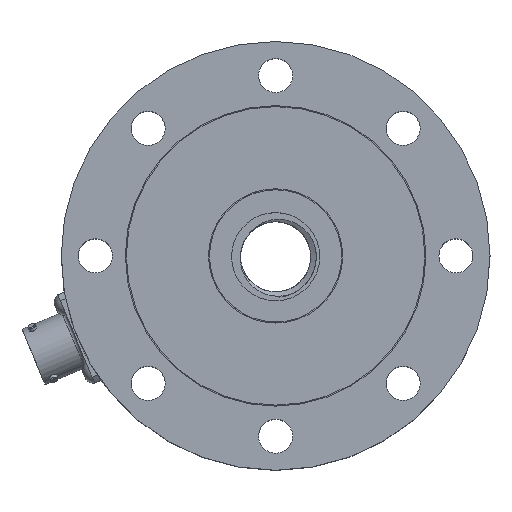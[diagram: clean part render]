
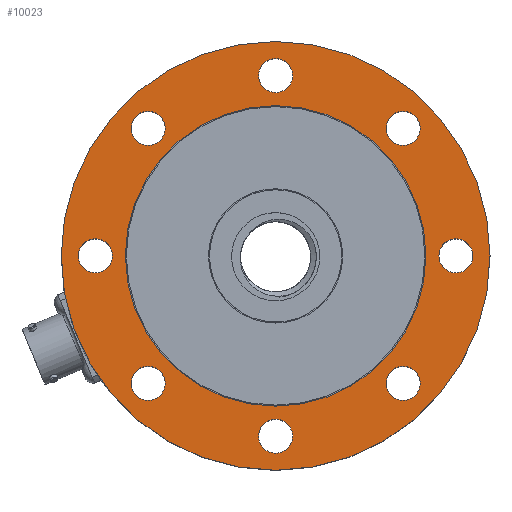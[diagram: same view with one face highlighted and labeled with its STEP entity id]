
A CAD part, top view. The second image highlights one B-rep face of the part: STEP entity #10023.
In plain terms, the highlighted planar face has unit normal (0, 0, 1).
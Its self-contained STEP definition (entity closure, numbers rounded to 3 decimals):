
#210=FACE_BOUND('',#1279,.T.);
#211=FACE_BOUND('',#1280,.T.);
#212=FACE_BOUND('',#1281,.T.);
#213=FACE_BOUND('',#1282,.T.);
#214=FACE_BOUND('',#1283,.T.);
#215=FACE_BOUND('',#1284,.T.);
#216=FACE_BOUND('',#1285,.T.);
#217=FACE_BOUND('',#1286,.T.);
#218=FACE_BOUND('',#1287,.T.);
#367=PLANE('',#10740);
#688=FACE_OUTER_BOUND('',#1278,.T.);
#1278=EDGE_LOOP('',(#7150,#7151));
#1279=EDGE_LOOP('',(#7152));
#1280=EDGE_LOOP('',(#7153));
#1281=EDGE_LOOP('',(#7154));
#1282=EDGE_LOOP('',(#7155));
#1283=EDGE_LOOP('',(#7156));
#1284=EDGE_LOOP('',(#7157));
#1285=EDGE_LOOP('',(#7158));
#1286=EDGE_LOOP('',(#7159));
#1287=EDGE_LOOP('',(#7160,#7161));
#2248=CIRCLE('',#10708,4.25);
#2250=CIRCLE('',#10711,4.25);
#2252=CIRCLE('',#10714,4.25);
#2254=CIRCLE('',#10717,4.25);
#2256=CIRCLE('',#10720,4.25);
#2258=CIRCLE('',#10723,4.25);
#2260=CIRCLE('',#10726,4.25);
#2268=CIRCLE('',#10738,37.5);
#2269=CIRCLE('',#10739,37.5);
#2270=CIRCLE('',#10741,53.5);
#2271=CIRCLE('',#10742,53.5);
#2272=CIRCLE('',#10743,4.25);
#4266=VERTEX_POINT('',#17803);
#4268=VERTEX_POINT('',#17809);
#4270=VERTEX_POINT('',#17815);
#4272=VERTEX_POINT('',#17821);
#4274=VERTEX_POINT('',#17827);
#4276=VERTEX_POINT('',#17833);
#4278=VERTEX_POINT('',#17839);
#4286=VERTEX_POINT('',#17861);
#4287=VERTEX_POINT('',#17862);
#4288=VERTEX_POINT('',#17867);
#4289=VERTEX_POINT('',#17868);
#4290=VERTEX_POINT('',#17871);
#5401=EDGE_CURVE('',#4266,#4266,#2248,.T.);
#5404=EDGE_CURVE('',#4268,#4268,#2250,.T.);
#5407=EDGE_CURVE('',#4270,#4270,#2252,.T.);
#5410=EDGE_CURVE('',#4272,#4272,#2254,.T.);
#5413=EDGE_CURVE('',#4274,#4274,#2256,.T.);
#5416=EDGE_CURVE('',#4276,#4276,#2258,.T.);
#5419=EDGE_CURVE('',#4278,#4278,#2260,.T.);
#5429=EDGE_CURVE('',#4286,#4287,#2268,.T.);
#5431=EDGE_CURVE('',#4287,#4286,#2269,.T.);
#5432=EDGE_CURVE('',#4288,#4289,#2270,.T.);
#5433=EDGE_CURVE('',#4289,#4288,#2271,.T.);
#5434=EDGE_CURVE('',#4290,#4290,#2272,.T.);
#7150=ORIENTED_EDGE('',*,*,#5432,.T.);
#7151=ORIENTED_EDGE('',*,*,#5433,.T.);
#7152=ORIENTED_EDGE('',*,*,#5401,.T.);
#7153=ORIENTED_EDGE('',*,*,#5404,.T.);
#7154=ORIENTED_EDGE('',*,*,#5407,.T.);
#7155=ORIENTED_EDGE('',*,*,#5410,.T.);
#7156=ORIENTED_EDGE('',*,*,#5413,.T.);
#7157=ORIENTED_EDGE('',*,*,#5416,.T.);
#7158=ORIENTED_EDGE('',*,*,#5419,.T.);
#7159=ORIENTED_EDGE('',*,*,#5434,.T.);
#7160=ORIENTED_EDGE('',*,*,#5429,.F.);
#7161=ORIENTED_EDGE('',*,*,#5431,.F.);
#10023=ADVANCED_FACE('',(#688,#210,#211,#212,#213,#214,#215,#216,#217,#218),
#367,.T.);
#10708=AXIS2_PLACEMENT_3D('',#17804,#11999,#12000);
#10711=AXIS2_PLACEMENT_3D('',#17810,#12006,#12007);
#10714=AXIS2_PLACEMENT_3D('',#17816,#12013,#12014);
#10717=AXIS2_PLACEMENT_3D('',#17822,#12020,#12021);
#10720=AXIS2_PLACEMENT_3D('',#17828,#12027,#12028);
#10723=AXIS2_PLACEMENT_3D('',#17834,#12034,#12035);
#10726=AXIS2_PLACEMENT_3D('',#17840,#12041,#12042);
#10738=AXIS2_PLACEMENT_3D('',#17863,#12067,#12068);
#10739=AXIS2_PLACEMENT_3D('',#17865,#12070,#12071);
#10740=AXIS2_PLACEMENT_3D('',#17866,#12072,#12073);
#10741=AXIS2_PLACEMENT_3D('',#17869,#12074,#12075);
#10742=AXIS2_PLACEMENT_3D('',#17870,#12076,#12077);
#10743=AXIS2_PLACEMENT_3D('',#17872,#12078,#12079);
#11999=DIRECTION('center_axis',(0.,0.,
-1.));
#12000=DIRECTION('ref_axis',(-0.707,0.707,0.));
#12006=DIRECTION('center_axis',(0.,0.,
-1.));
#12007=DIRECTION('ref_axis',(0.,1.,0.));
#12013=DIRECTION('center_axis',(0.,0.,
-1.));
#12014=DIRECTION('ref_axis',(0.707,0.707,0.));
#12020=DIRECTION('center_axis',(0.,0.,
-1.));
#12021=DIRECTION('ref_axis',(1.,0.,0.));
#12027=DIRECTION('center_axis',(0.,0.,
-1.));
#12028=DIRECTION('ref_axis',(0.707,-0.707,0.));
#12034=DIRECTION('center_axis',(0.,0.,
-1.));
#12035=DIRECTION('ref_axis',(0.,-1.,0.));
#12041=DIRECTION('center_axis',(0.,0.,
-1.));
#12042=DIRECTION('ref_axis',(-0.707,-0.707,0.));
#12067=DIRECTION('center_axis',(0.,0.,1.));
#12068=DIRECTION('ref_axis',(1.,0.,0.));
#12070=DIRECTION('center_axis',(0.,0.,1.));
#12071=DIRECTION('ref_axis',(1.,0.,0.));
#12072=DIRECTION('center_axis',(0.,0.,1.));
#12073=DIRECTION('ref_axis',(1.,0.,0.));
#12074=DIRECTION('center_axis',(0.,0.,1.));
#12075=DIRECTION('ref_axis',(1.,0.,0.));
#12076=DIRECTION('center_axis',(0.,0.,1.));
#12077=DIRECTION('ref_axis',(1.,0.,0.));
#12078=DIRECTION('center_axis',(0.,0.,-1.));
#12079=DIRECTION('ref_axis',(-1.,0.,0.));
#17803=CARTESIAN_POINT('',(34.825,-34.825,31.));
#17804=CARTESIAN_POINT('Origin',(31.82,-31.82,31.));
#17809=CARTESIAN_POINT('',(0.,-49.25,31.));
#17810=CARTESIAN_POINT('Origin',(0.,-45.,31.));
#17815=CARTESIAN_POINT('',(-34.825,-34.825,31.));
#17816=CARTESIAN_POINT('Origin',(-31.82,-31.82,31.));
#17821=CARTESIAN_POINT('',(-49.25,0.,31.));
#17822=CARTESIAN_POINT('Origin',(-45.,0.,31.));
#17827=CARTESIAN_POINT('',(-34.825,34.825,31.));
#17828=CARTESIAN_POINT('Origin',(-31.82,31.82,31.));
#17833=CARTESIAN_POINT('',(0.,49.25,31.));
#17834=CARTESIAN_POINT('Origin',(0.,45.,31.));
#17839=CARTESIAN_POINT('',(34.825,34.825,31.));
#17840=CARTESIAN_POINT('Origin',(31.82,31.82,31.));
#17861=CARTESIAN_POINT('',(37.5,0.,31.));
#17862=CARTESIAN_POINT('',(-37.5,0.,31.));
#17863=CARTESIAN_POINT('Origin',(0.,0.,31.));
#17865=CARTESIAN_POINT('Origin',(0.,0.,31.));
#17866=CARTESIAN_POINT('Origin',(37.5,0.,31.));
#17867=CARTESIAN_POINT('',(53.5,0.,31.));
#17868=CARTESIAN_POINT('',(-53.5,0.,31.));
#17869=CARTESIAN_POINT('Origin',(0.,0.,31.));
#17870=CARTESIAN_POINT('Origin',(0.,0.,31.));
#17871=CARTESIAN_POINT('',(49.25,0.,31.));
#17872=CARTESIAN_POINT('Origin',(45.,0.,31.));
